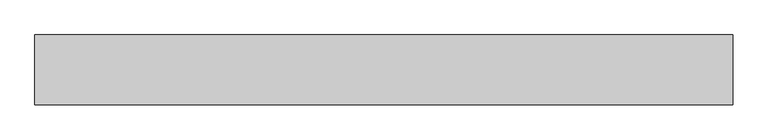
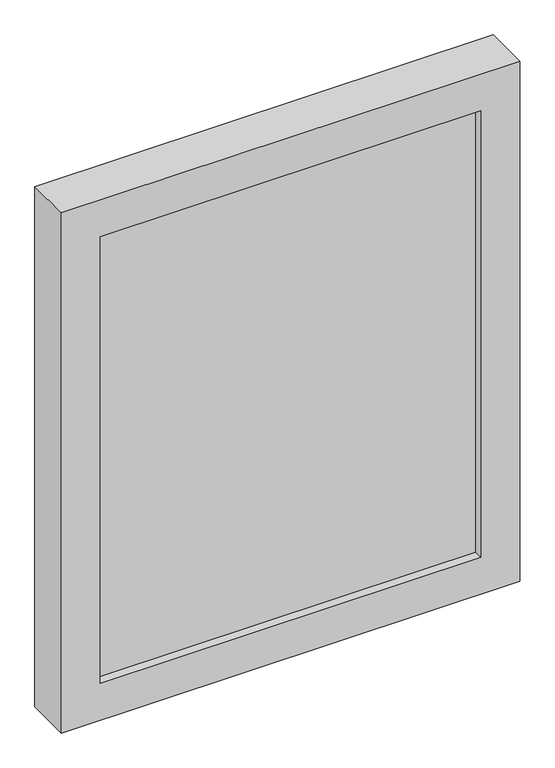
"""IFC4 building model written with IfcOpenShell, lengths in millimetres: proxy geometry, Renson_Fixvent_Window_SimpleFrame_Gen - M : Renson_Fixvent_Window_SimpleFrame_Gen."""

from ifc_helpers import new_model, si_unit, frame, origin, place, context, project, spatial, polyline, outline, extrude, faceted_brep, source, transform, mapped, element, save


def generic_models_217476fc(model_context):
    return source(origin(), model_context, "Body", "SolidModel", [
        extrude(outline(polyline([(1990.0, -435.0), (920.0, -435.0), (920.0, 435.0), (1990.0, 435.0), (1990.0, -435.0)]), holes=[polyline([(1970.0, 415.0), (940.0, 415.0), (940.0, -415.0), (1970.0, -415.0), (1970.0, 415.0)])]), frame((0.0, 39.9933422, 0.0), z_axis=(0.0, 1.0, 0.0), x_axis=(0.0, 0.0, 1.0)), (0.0, 0.0, 1.0), 60.0),
        extrude(outline(polyline([(435.0, 19.9933422), (-435.0, 19.9933422), (-435.0, 39.9933422), (435.0, 39.9933422), (435.0, 19.9933422)])), frame((0.0, 0.0, 920.0), z_axis=(0.0, 0.0, 1.0), x_axis=(1.0, 0.0, 0.0)), (0.0, 0.0, 1.0), 1070.0),
        faceted_brep([(-435.0, 19.9933422, 1990.0), (-435.0, 99.9933422, 1990.0), (435.0, 99.9933422, 1990.0), (435.0, 19.9933422, 1990.0), (-415.0, -0.0066578, 1970.0), (-415.0, 19.9933422, 1970.0), (415.0, 19.9933422, 1970.0), (415.0, -0.0066578, 1970.0), (-500.0, 99.9933422, 2055.0), (-500.0, -0.0066578, 2055.0), (500.0, -0.0066578, 2055.0), (500.0, 99.9933422, 2055.0), (435.0, 99.9933422, 920.0), (435.0, 19.9933422, 920.0), (415.0, 19.9933422, 940.0), (415.0, -0.0066578, 940.0), (500.0, -0.0066578, 855.0), (500.0, 99.9933422, 855.0), (-435.0, 99.9933422, 920.0), (-435.0, 19.9933422, 920.0), (-415.0, 19.9933422, 940.0), (-415.0, -0.0066578, 940.0), (-500.0, -0.0066578, 855.0), (-500.0, 99.9933422, 855.0)], [[[0, 1, 2, 3]], [[4, 5, 6, 7]], [[8, 9, 10, 11]], [[3, 2, 12, 13]], [[7, 6, 14, 15]], [[11, 10, 16, 17]], [[13, 12, 18, 19]], [[15, 14, 20, 21]], [[17, 16, 22, 23]], [[11, 17, 23, 8], [1, 18, 12, 2]], [[19, 18, 1, 0]], [[3, 13, 19, 0], [5, 20, 14, 6]], [[21, 20, 5, 4]], [[9, 22, 16, 10], [7, 15, 21, 4]], [[23, 22, 9, 8]]]),
    ])


if __name__ == "__main__":
    model = new_model("IFC4")
    model_context = context("Model", 3, world=origin())
    ifc_project = project(units=[si_unit("LENGTHUNIT", "METRE", prefix="MILLI")], contexts=[model_context])
    site = spatial("IfcSite", under=ifc_project)
    building = spatial("IfcBuilding", under=site)
    placement = place(None, origin())
    generic_models_shape = generic_models_217476fc(model_context)
    element("IfcBuildingElementProxy", 1, Name="Renson_Fixvent_Window_SimpleFrame_Gen - M : Renson_Fixvent_Window_SimpleFrame_Gen", ObjectType="Renson_Fixvent_Window_SimpleFrame_Gen - M : Renson_Fixvent_Window_SimpleFrame_Gen", at=placement, inside=building, context=model_context, shape_type="MappedRepresentation", body=[
        mapped(generic_models_shape, transform((0.0, 0.0, 0.0), x_axis=(1.0, 0.0, 0.0), y_axis=(0.0, 1.0, 0.0), z_axis=(0.0, 0.0, 1.0))),
    ])
    save(model, "model.ifc")
